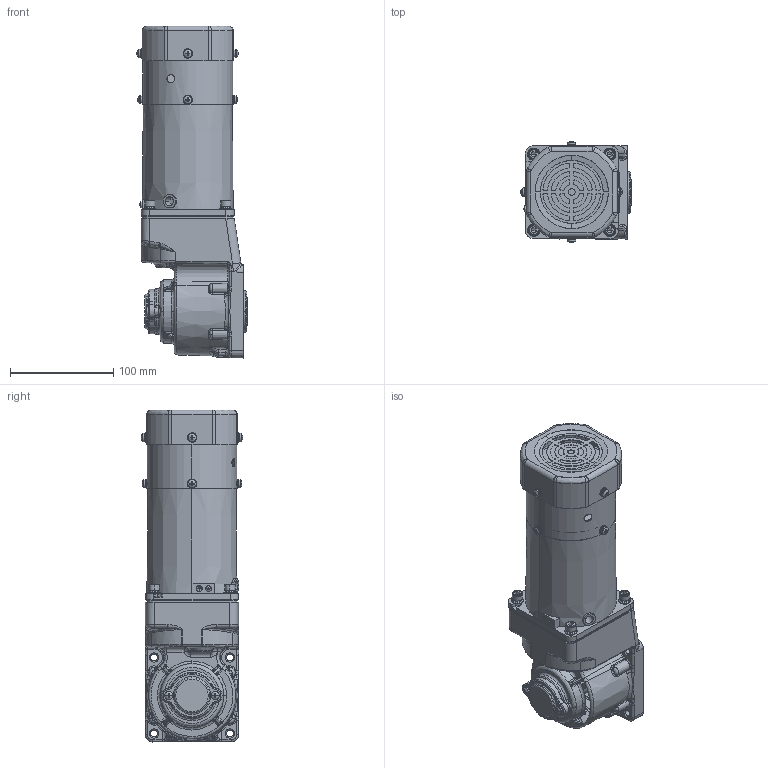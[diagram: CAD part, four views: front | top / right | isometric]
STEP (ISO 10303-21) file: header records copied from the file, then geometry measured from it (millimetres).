
FILE_DESCRIPTION (( 'STEP AP203' ), '1' );
FILE_NAME ('5RK90GU-CMF(5GU3RC-180RC)ÐÂ.STEP', '2022-02-23T07:04:09', ( 'PC' ), ( 'Microsoft' ), 'SwSTEP 2.0', 'SolidWorks 2014', '' );
FILE_SCHEMA (( 'CONFIG_CONTROL_DESIGN' ));
Length unit declared in the file: millimetre
Products named in the file (8): 90RT妗陑怀堤傷裔; 90諾陑怀堤粣; hexagon socket head cap screws gb_GB_FASTENER_SCREWS_HSHCS M5X12-N; ZD-5GU50RC-505-003綴傷裔1; cross recessed pan head screws gb_GB_CROSS_SCREWS_TYPE1 M4X6-6  H type-N; 5RK90GU-CMF(5GU3RC-180RC); 5RK90GU-CMF(5GU3RC-180RC)陔; 90妗陑俋倛芞
Assembly tree (11 placements, depth 2):
  5RK90GU-CMF(5GU3RC-180RC)陔
    90妗陑俋倛芞
    90RT妗陑怀堤傷裔
    90諾陑怀堤粣
    hexagon socket head cap screws gb_GB_FASTENER_SCREWS_HSHCS M5X12-N  x4
    ZD-5GU50RC-505-003綴傷裔1
    cross recessed pan head screws gb_GB_CROSS_SCREWS_TYPE1 M4X6-6  H type-N  x2
    5RK90GU-CMF(5GU3RC-180RC)
Bounding box: 106.75 x 98.11 x 321.54 mm (x, y, z)
Volume: 1581115.8 mm3; surface area: 248333 mm2
Topology: 54 solids, 54 shells, 2406 faces, 5966 edges, 3617 vertices
Faces by surface type: plane 753, cylinder 641, bspline 510, cone 413, torus 85, sphere 4
Entity records: 97350 total; most frequent: CARTESIAN_POINT 45567, ORIENTED_EDGE 11228, DIRECTION 9878, EDGE_CURVE 5614, AXIS2_PLACEMENT_3D 3909, VERTEX_POINT 3474, EDGE_LOOP 2476, ADVANCED_FACE 2306
